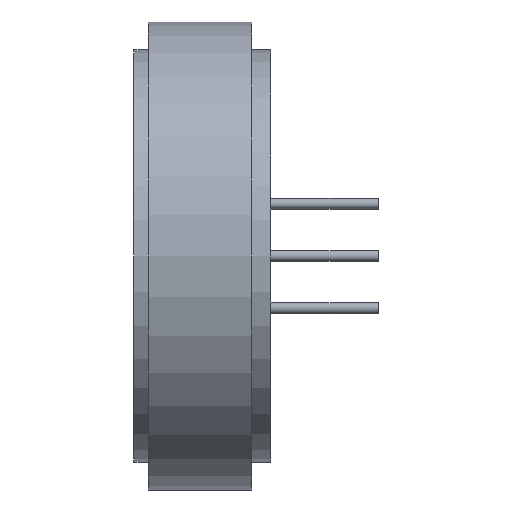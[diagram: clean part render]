
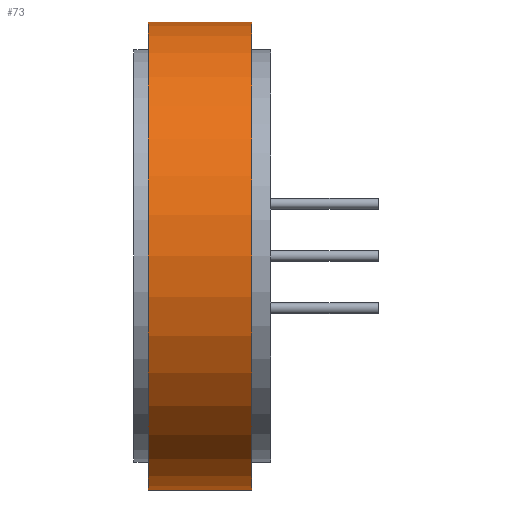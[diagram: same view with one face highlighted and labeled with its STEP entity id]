
A CAD part, left-side view. The second image highlights one B-rep face of the part: STEP entity #73.
In plain terms, the highlighted cylindrical face has radius 54.5 mm (diameter 109 mm), a partial arc.
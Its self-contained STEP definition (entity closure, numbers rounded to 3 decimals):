
#30 = EDGE_CURVE ( 'NONE', #32, #225, #480, .T. ) ;
#32 = VERTEX_POINT ( 'NONE', #1091 ) ;
#55 = LINE ( 'NONE', #1069, #632 ) ;
#73 = ADVANCED_FACE ( 'NONE', ( #1856 ), #545, .T. ) ;
#150 = DIRECTION ( 'NONE',  ( 0., 1., 0. ) ) ;
#225 = VERTEX_POINT ( 'NONE', #1183 ) ;
#295 = EDGE_CURVE ( 'NONE', #973, #225, #55, .T. ) ;
#433 = EDGE_CURVE ( 'NONE', #1057, #32, #1694, .T. ) ;
#480 = CIRCLE ( 'NONE', #654, 54.5 ) ;
#501 = DIRECTION ( 'NONE',  ( 0., 0., 1. ) ) ;
#528 = CARTESIAN_POINT ( 'NONE',  ( 0., -0.51, -54.5 ) ) ;
#545 = CYLINDRICAL_SURFACE ( 'NONE', #1471, 54.5 ) ;
#632 = VECTOR ( 'NONE', #1786, 1000. ) ;
#654 = AXIS2_PLACEMENT_3D ( 'NONE', #1222, #1645, #1804 ) ;
#771 = ORIENTED_EDGE ( 'NONE', *, *, #433, .F. ) ;
#796 = DIRECTION ( 'NONE',  ( 0., 1., 0. ) ) ;
#822 = AXIS2_PLACEMENT_3D ( 'NONE', #1783, #796, #501 ) ;
#918 = ORIENTED_EDGE ( 'NONE', *, *, #1579, .T. ) ;
#973 = VERTEX_POINT ( 'NONE', #1358 ) ;
#1057 = VERTEX_POINT ( 'NONE', #1446 ) ;
#1069 = CARTESIAN_POINT ( 'NONE',  ( 0., -0.51, 54.5 ) ) ;
#1091 = CARTESIAN_POINT ( 'NONE',  ( 0., 23.51, -54.5 ) ) ;
#1127 = DIRECTION ( 'NONE',  ( 0., 0., 1. ) ) ;
#1146 = CARTESIAN_POINT ( 'NONE',  ( 0., -0.51, 0. ) ) ;
#1153 = VECTOR ( 'NONE', #1833, 1000. ) ;
#1173 = EDGE_LOOP ( 'NONE', ( #771, #918, #1185, #1650 ) ) ;
#1183 = CARTESIAN_POINT ( 'NONE',  ( 0., 23.51, 54.5 ) ) ;
#1185 = ORIENTED_EDGE ( 'NONE', *, *, #295, .T. ) ;
#1222 = CARTESIAN_POINT ( 'NONE',  ( 0., 23.51, 0. ) ) ;
#1358 = CARTESIAN_POINT ( 'NONE',  ( 0., -0.51, 54.5 ) ) ;
#1446 = CARTESIAN_POINT ( 'NONE',  ( 0., -0.51, -54.5 ) ) ;
#1471 = AXIS2_PLACEMENT_3D ( 'NONE', #1146, #150, #1127 ) ;
#1579 = EDGE_CURVE ( 'NONE', #1057, #973, #1638, .T. ) ;
#1638 = CIRCLE ( 'NONE', #822, 54.5 ) ;
#1645 = DIRECTION ( 'NONE',  ( 0., 1., 0. ) ) ;
#1650 = ORIENTED_EDGE ( 'NONE', *, *, #30, .F. ) ;
#1694 = LINE ( 'NONE', #528, #1153 ) ;
#1783 = CARTESIAN_POINT ( 'NONE',  ( 0., -0.51, 0. ) ) ;
#1786 = DIRECTION ( 'NONE',  ( 0., 1., 0. ) ) ;
#1804 = DIRECTION ( 'NONE',  ( 0., 0., 1. ) ) ;
#1833 = DIRECTION ( 'NONE',  ( 0., 1., 0. ) ) ;
#1856 = FACE_OUTER_BOUND ( 'NONE', #1173, .T. ) ;
